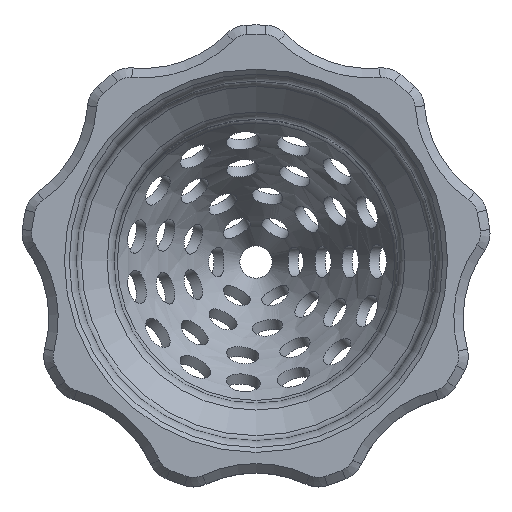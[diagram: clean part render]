
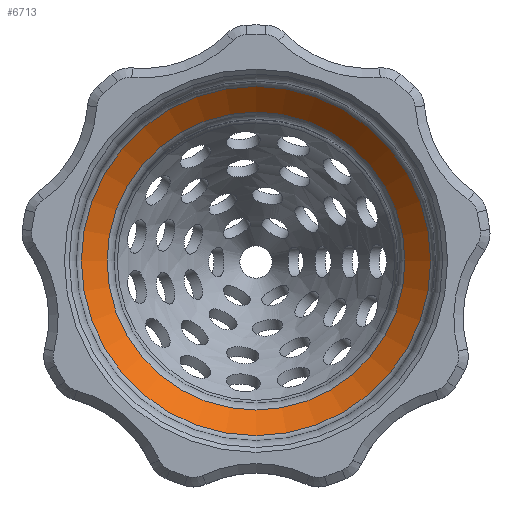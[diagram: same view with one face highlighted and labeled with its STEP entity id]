
A CAD part, top view. The second image highlights one B-rep face of the part: STEP entity #6713.
In plain terms, the highlighted conical face has half-angle 45 degrees and reference radius 30.5 mm.
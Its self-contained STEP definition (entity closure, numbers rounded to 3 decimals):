
#397=CONICAL_SURFACE('',#7281,30.5,0.785);
#509=CIRCLE('',#7252,29.621);
#510=CIRCLE('',#7253,29.621);
#512=CIRCLE('',#7256,25.272);
#864=FACE_OUTER_BOUND('',#1306,.T.);
#1306=EDGE_LOOP('',(#5264,#5265,#5266,#5267,#5268));
#1726=LINE('',#14182,#2109);
#2109=VECTOR('',#8502,30.5);
#3065=VERTEX_POINT('',#14112);
#3066=VERTEX_POINT('',#14114);
#3067=VERTEX_POINT('',#14118);
#3858=EDGE_CURVE('',#3066,#3065,#509,.T.);
#3859=EDGE_CURVE('',#3065,#3066,#510,.T.);
#3861=EDGE_CURVE('',#3067,#3067,#512,.T.);
#3891=EDGE_CURVE('',#3067,#3066,#1726,.T.);
#5264=ORIENTED_EDGE('',*,*,#3861,.T.);
#5265=ORIENTED_EDGE('',*,*,#3891,.T.);
#5266=ORIENTED_EDGE('',*,*,#3858,.T.);
#5267=ORIENTED_EDGE('',*,*,#3859,.T.);
#5268=ORIENTED_EDGE('',*,*,#3891,.F.);
#6713=ADVANCED_FACE('',(#864),#397,.F.);
#7252=AXIS2_PLACEMENT_3D('',#14115,#8429,#8430);
#7253=AXIS2_PLACEMENT_3D('',#14116,#8431,#8432);
#7256=AXIS2_PLACEMENT_3D('',#14120,#8437,#8438);
#7281=AXIS2_PLACEMENT_3D('',#14181,#8500,#8501);
#8429=DIRECTION('center_axis',(0.,0.,1.));
#8430=DIRECTION('ref_axis',(0.,-1.,0.));
#8431=DIRECTION('center_axis',(0.,0.,1.));
#8432=DIRECTION('ref_axis',(0.,-1.,0.));
#8437=DIRECTION('center_axis',(0.,0.,-1.));
#8438=DIRECTION('ref_axis',(0.,1.,0.));
#8500=DIRECTION('center_axis',(0.,0.,1.));
#8501=DIRECTION('ref_axis',(0.,-1.,0.));
#8502=DIRECTION('',(0.,0.707,0.707));
#14112=CARTESIAN_POINT('',(0.,-29.621,11.521));
#14114=CARTESIAN_POINT('',(0.,29.621,11.521));
#14115=CARTESIAN_POINT('Origin',(0.,0.,11.521));
#14116=CARTESIAN_POINT('Origin',(0.,0.,11.521));
#14118=CARTESIAN_POINT('',(0.,25.272,7.172));
#14120=CARTESIAN_POINT('Origin',(0.,0.,7.172));
#14181=CARTESIAN_POINT('Origin',(0.,0.,12.4));
#14182=CARTESIAN_POINT('',(0.,30.5,12.4));
